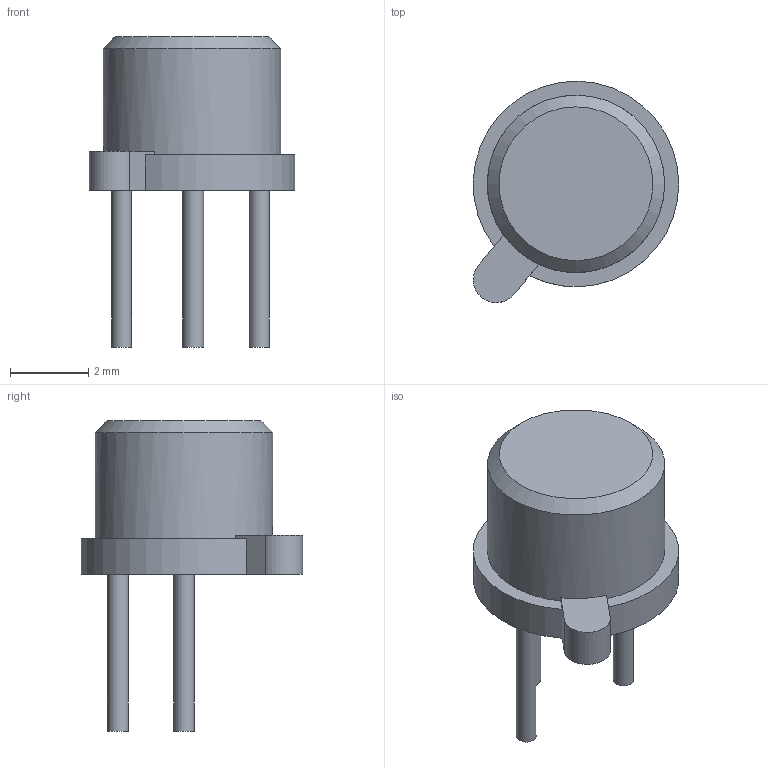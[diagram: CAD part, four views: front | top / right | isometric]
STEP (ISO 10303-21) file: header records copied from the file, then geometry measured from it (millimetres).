
FILE_DESCRIPTION(('FreeCAD Model'),'2;1');
FILE_NAME('Open CASCADE Shape Model','2023-12-26T11:26:20',( 'kicad StepUp'),('ksu MCAD'),'Open CASCADE STEP processor 7.6', 'FreeCAD','Unknown');
FILE_SCHEMA(('AUTOMOTIVE_DESIGN { 1 0 10303 214 1 1 1 1 }'));
Length unit declared in the file: millimetre
Products named in the file (1): pins
Bounding box: 5.24 x 5.65 x 7.91 mm (x, y, z)
Volume: 70.9 mm3; surface area: 122 mm2
Topology: 1 solids, 1 shells, 21 faces, 44 edges, 28 vertices
Faces by surface type: plane 13, cylinder 7, cone 1
Full cylindrical faces by diameter (mm): 0.506 x1, 0.515 x1, 0.534 x1, 4.52 x1
Entity records: 590 total; most frequent: DIRECTION 110, CARTESIAN_POINT 94, ORIENTED_EDGE 88, AXIS2_PLACEMENT_3D 44, EDGE_CURVE 44, VERTEX_POINT 28, FACE_BOUND 24, EDGE_LOOP 24
